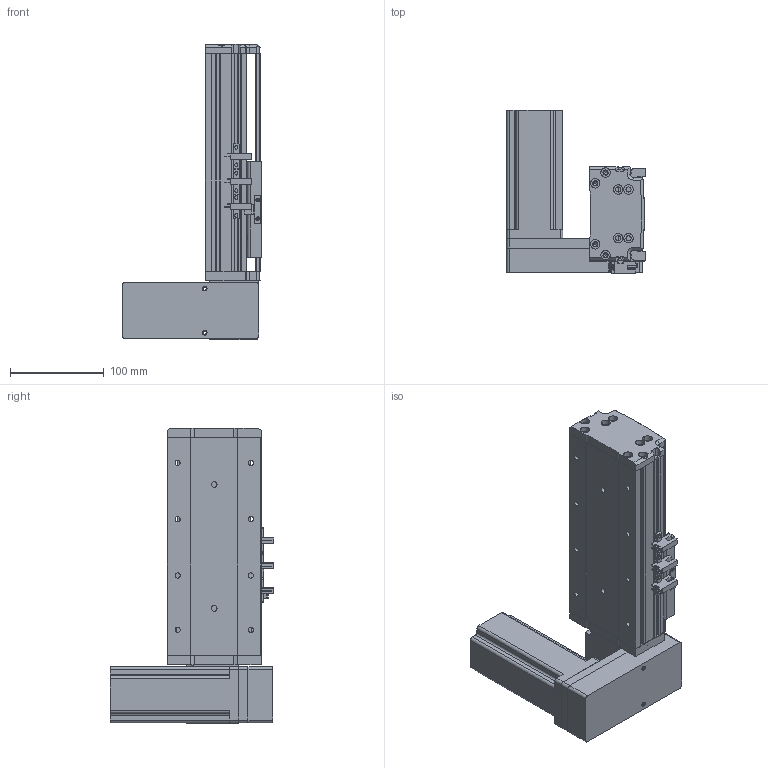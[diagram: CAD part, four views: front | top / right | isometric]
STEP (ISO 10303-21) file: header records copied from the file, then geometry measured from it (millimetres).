
FILE_DESCRIPTION (( 'STEP AP214' ), '1' );
FILE_NAME ('KSD100B-S50-MRD-CM.STEP', '2019-10-16T07:15:44', ( '微软用户' ), ( '微软中国' ), 'SwSTEP 2.0', 'SolidWorks 2014', '' );
FILE_SCHEMA (( 'AUTOMOTIVE_DESIGN' ));
Length unit declared in the file: millimetre
Products named in the file (12): 覜茼え100遵圉猾敕; 100宽防尘板50行程-同步带; 100宽马达安装板同步带右; 100宽同步带安装板半封闭; 100宽马达安装板同步带; 100遵傷啣肮祭湍; 100宽底板半封闭同步带50行程; KSD100B-S50-MRD-CM; 悵誘欶奻狟殏; 100宽马达安装板连板上下折丝杆同步带; 台达ECMA－C20604AS伺服电机; U倰嫖萇EEㄜSX672
Assembly tree (13 placements, depth 2):
  KSD100B-S50-MRD-CM
    100宽底板半封闭同步带50行程
    100遵傷啣肮祭湍
    100宽马达安装板同步带
    100宽同步带安装板半封闭
    100宽马达安装板同步带右
    100宽防尘板50行程-同步带
    覜茼え100遵圉猾敕
    U倰嫖萇EEㄜSX672  x3
    台达ECMA－C20604AS伺服电机
    100宽马达安装板连板上下折丝杆同步带
    悵誘欶奻狟殏
Bounding box: 148 x 174.7 x 315 mm (x, y, z)
Volume: 1230195.6 mm3; surface area: 354859.8 mm2
Topology: 14 solids, 14 shells, 1233 faces, 3440 edges, 2227 vertices
Faces by surface type: cylinder 591, plane 567, cone 75
Entity records: 42037 total; most frequent: CARTESIAN_POINT 7412, DIRECTION 5892, ORIENTED_EDGE 5636, EDGE_CURVE 2818, AXIS2_PLACEMENT_3D 2125, VERTEX_POINT 1851, LINE 1642, VECTOR 1642
